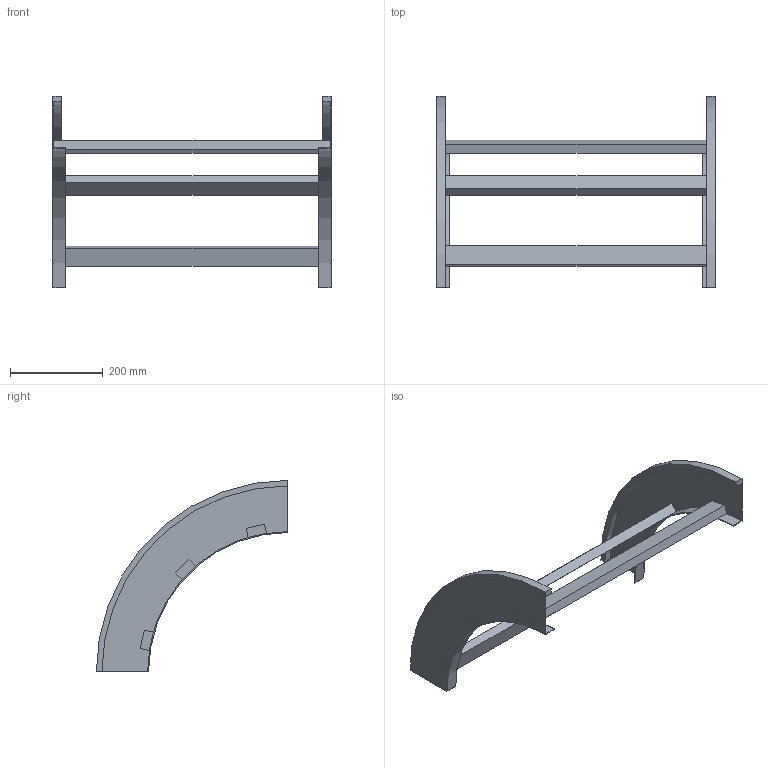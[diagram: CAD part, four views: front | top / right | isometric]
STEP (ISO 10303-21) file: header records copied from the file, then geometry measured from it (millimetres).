
FILE_DESCRIPTION (( 'STEP AP214' ), '1' );
FILE_NAME ('B2_33B3J600.step', '2025-02-21T15:04:18', ( '' ), ( '' ), 'SwSTEP 2.0', 'SolidWorks 2023', '' );
FILE_SCHEMA (( 'AUTOMOTIVE_DESIGN' ));
Length unit declared in the file: millimetre
Products named in the file (3): B2_LONGH.DISCESA_90°_H112.5_R300; TRAVERSINO_600; B2_33B3J600
Assembly tree (5 placements, depth 2):
  B2_33B3J600
    B2_LONGH.DISCESA_90°_H112.5_R300  x2
    TRAVERSINO_600  x3
Bounding box: 600 x 412.5 x 412.5 mm (x, y, z)
Volume: 1992574.3 mm3; surface area: 567517.9 mm2
Topology: 5 solids, 5 shells, 38 faces, 84 edges, 56 vertices
Faces by surface type: plane 30, cylinder 8
Entity records: 560 total; most frequent: DIRECTION 92, CARTESIAN_POINT 84, ORIENTED_EDGE 72, EDGE_CURVE 36, AXIS2_PLACEMENT_3D 32, LINE 28, VECTOR 28, VERTEX_POINT 24
